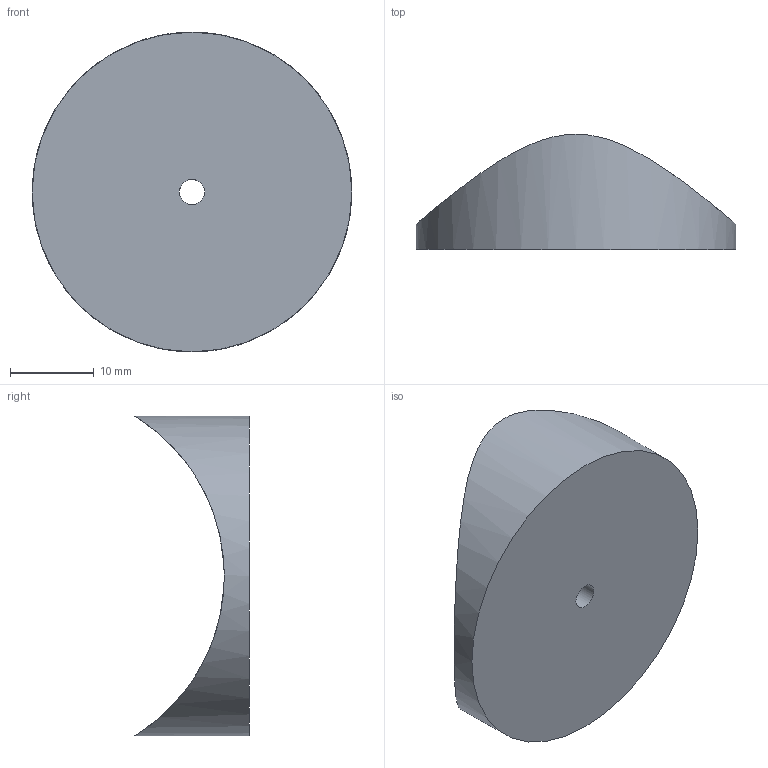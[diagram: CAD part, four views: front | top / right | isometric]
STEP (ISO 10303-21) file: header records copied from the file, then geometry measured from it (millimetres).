
FILE_DESCRIPTION(/* description */ (''),/* implementation_level */ '2;1');
FILE_NAME(/* name */ 'C:/Users/ianhu/Documents/Robots/Boosters/Ians Booster Grips.step',/* time_stamp */ '2019-01-21T17:54:17+10:00',/* author */ (''),/* organization */ (''),/* preprocessor_version */ 'ST-DEVELOPER v17.2',/* originating_system */ 'Autodesk Translation Framework v7.6.0.251',/* authorisation */ '');
FILE_SCHEMA (('AUTOMOTIVE_DESIGN { 1 0 10303 214 3 1 1 }'));
Length unit declared in the file: millimetre
Products named in the file (2): Booster Ian Mod Bracket V2; Booster Bracket
Assembly tree (1 placements, depth 2):
  Booster Ian Mod Bracket V2
    Booster Bracket
Bounding box: 38.07 x 13.69 x 38.07 mm (x, y, z)
Volume: 5990.5 mm3; surface area: 3391 mm2
Topology: 1 solids, 1 shells, 4 faces, 9 edges, 7 vertices
Faces by surface type: cylinder 3, plane 1
Full cylindrical faces by diameter (mm): 3 x1, 38.068 x1
Entity records: 269 total; most frequent: CARTESIAN_POINT 123, DIRECTION 22, ORIENTED_EDGE 18, AXIS2_PLACEMENT_3D 10, EDGE_CURVE 9, VERTEX_POINT 7, EDGE_LOOP 6, FACE_OUTER_BOUND 4
